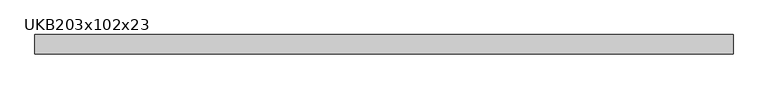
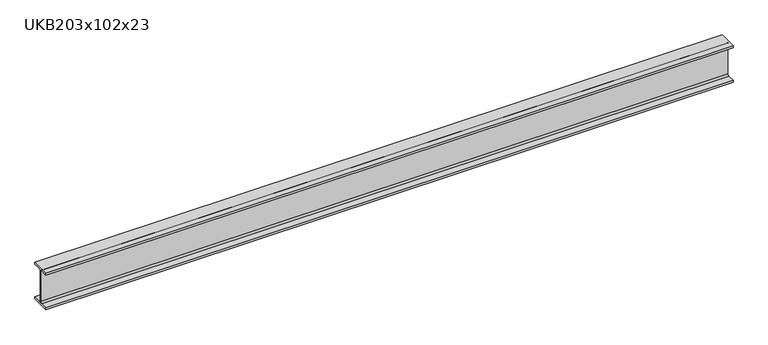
"""IFC4 building model written with IfcOpenShell, lengths in millimetres: beam geometry, UKB-UK Beams : UKB203x102x23."""

from ifc_helpers import new_model, si_unit, point, frame, frame_2d, origin, place, context, project, spatial, polyline, circle_curve, trimmed, segment, composite_curve, outline, extrude, source, transform, mapped, element, save


def ukb203x102x23_04439e79(model_context):
    return source(origin(), model_context, "Body", "SweptSolid", [
        extrude(outline(composite_curve([segment(polyline([(50.9, -92.3), (50.9, -101.6), (-50.9, -101.6), (-50.9, -92.3), (-10.3, -92.3)]), True, "CONTINUOUS"), segment(trimmed(circle_curve(frame_2d((-10.3, -84.7)), 7.6), [point((-10.3, -92.3))], [point((-2.7, -84.7))], True, "CARTESIAN"), True, "CONTINUOUS"), segment(polyline([(-2.7, -84.7), (-2.7, 84.7)]), True, "CONTINUOUS"), segment(trimmed(circle_curve(frame_2d((-10.3, 84.7)), 7.6), [point((-2.7, 84.7))], [point((-10.3, 92.3))], True, "CARTESIAN"), True, "CONTINUOUS"), segment(polyline([(-10.3, 92.3), (-50.9, 92.3), (-50.9, 101.6), (50.9, 101.6), (50.9, 92.3), (10.3, 92.3)]), True, "CONTINUOUS"), segment(trimmed(circle_curve(frame_2d((10.3, 84.7)), 7.6), [point((10.3, 92.3))], [point((2.7, 84.7))], True, "CARTESIAN"), True, "CONTINUOUS"), segment(polyline([(2.7, 84.7), (2.7, -84.7)]), True, "CONTINUOUS"), segment(trimmed(circle_curve(frame_2d((10.3, -84.7)), 7.6), [point((2.7, -84.7))], [point((10.3, -92.3))], True, "CARTESIAN"), True, "CONTINUOUS"), segment(polyline([(10.3, -92.3), (50.9, -92.3)]), True, "CONTINUOUS")], self_intersect=False)), frame((-1825.0, 0.0, 0.0), z_axis=(1.0, 0.0, 0.0), x_axis=(0.0, 1.0, 0.0)), (0.0, 0.0, 1.0), 3650.0),
    ])


if __name__ == "__main__":
    model = new_model("IFC4")
    model_context = context("Model", 3, world=origin())
    ifc_project = project(units=[si_unit("LENGTHUNIT", "METRE", prefix="MILLI")], contexts=[model_context])
    site = spatial("IfcSite", under=ifc_project)
    building = spatial("IfcBuilding", under=site)
    placement = place(None, origin())
    ukb203x102x23_shape = ukb203x102x23_04439e79(model_context)
    element("IfcBeam", 1, ObjectType="UKB-UK Beams : UKB203x102x23", at=placement, inside=building, context=model_context, shape_type="MappedRepresentation", body=[
        mapped(ukb203x102x23_shape, transform((0.0, 0.0, 0.0), x_axis=(1.0, 0.0, 0.0), y_axis=(0.0, 1.0, 0.0), z_axis=(0.0, 0.0, 1.0))),
    ])
    save(model, "model.ifc")
